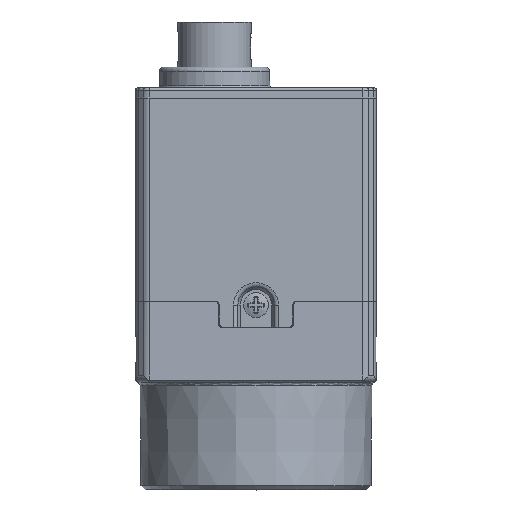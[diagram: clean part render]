
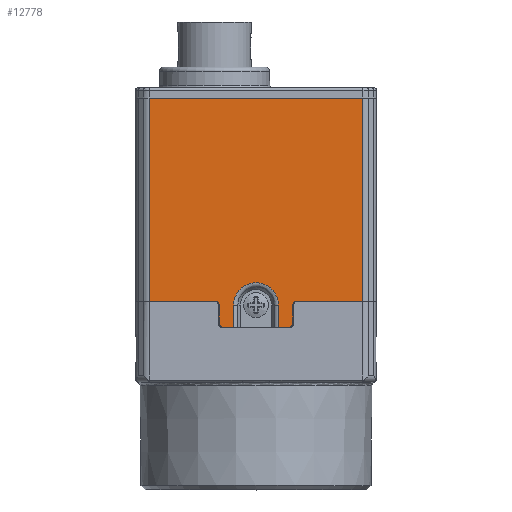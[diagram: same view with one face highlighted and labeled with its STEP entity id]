
A CAD part, top view. The second image highlights one B-rep face of the part: STEP entity #12778.
In plain terms, the highlighted planar face has unit normal (0, 0, 1).
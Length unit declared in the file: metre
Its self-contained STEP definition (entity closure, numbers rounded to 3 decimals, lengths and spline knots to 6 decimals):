
#12778=ADVANCED_FACE('0:6643',(#32966),#32967,.T.);
#15498=EDGE_CURVE('0:23629',#37070,#37066,#37071,.T.);
#15864=EDGE_CURVE('0:23614',#37604,#37601,#37605,.T.);
#17132=EDGE_CURVE('0:7330',#39390,#39383,#39393,.T.);
#19110=EDGE_CURVE('0:24562',#42125,#42122,#42128,.T.);
#19646=EDGE_CURVE('0:23590',#42859,#42862,#42863,.T.);
#19878=EDGE_CURVE('0:7612',#43178,#43179,#43180,.T.);
#20210=EDGE_CURVE('0:23641',#43629,#43630,#43631,.T.);
#20358=EDGE_CURVE('0:24331',#43825,#42125,#43828,.T.);
#20996=EDGE_CURVE('0:23620',#43178,#37604,#44665,.T.);
#21112=EDGE_CURVE('0:23650',#44810,#43629,#44816,.T.);
#22288=EDGE_CURVE('0:23605',#46317,#46320,#46323,.T.);
#23696=EDGE_CURVE('0:23599',#46320,#42862,#48076,.T.);
#24952=EDGE_CURVE('0:24559',#39390,#42122,#49576,.T.);
#24998=EDGE_CURVE('0:23626',#37066,#43179,#49631,.T.);
#25534=EDGE_CURVE('0:23653',#44810,#43825,#50227,.T.);
#25536=EDGE_CURVE('0:23638',#43630,#37070,#50229,.T.);
#25538=EDGE_CURVE('0:23611',#37601,#46317,#50231,.T.);
#25540=EDGE_CURVE('0:24379',#39383,#42859,#50233,.T.);
#32966=FACE_OUTER_BOUND('',#67886,.T.);
#32967=PLANE('',#67887);
#37066=VERTEX_POINT('',#77421);
#37070=VERTEX_POINT('',#77426);
#37071=LINE('',#77427,#77428);
#37601=VERTEX_POINT('',#78478);
#37604=VERTEX_POINT('',#78483);
#37605=LINE('',#78484,#78485);
#39383=VERTEX_POINT('',#81934);
#39390=VERTEX_POINT('',#81944);
#39393=LINE('',#81948,#81949);
#42122=VERTEX_POINT('',#86896);
#42125=VERTEX_POINT('',#86900);
#42128=LINE('',#86904,#86905);
#42859=VERTEX_POINT('',#88327);
#42862=VERTEX_POINT('',#88332);
#42863=LINE('',#88333,#88334);
#43178=VERTEX_POINT('',#88863);
#43179=VERTEX_POINT('',#88864);
#43180=CIRCLE('',#88865,0.002708);
#43629=VERTEX_POINT('',#89635);
#43630=VERTEX_POINT('',#89636);
#43631=LINE('',#89637,#89638);
#43825=VERTEX_POINT('',#90037);
#43828=LINE('',#90042,#90043);
#44665=LINE('',#91478,#91479);
#44810=VERTEX_POINT('',#91715);
#44816=CIRCLE('',#91724,0.0005);
#46317=VERTEX_POINT('',#94417);
#46320=VERTEX_POINT('',#94422);
#46323=LINE('',#94427,#94428);
#48076=CIRCLE('',#97715,0.0005);
#49576=LINE('',#100490,#100491);
#49631=LINE('',#100582,#100583);
#50227=LINE('',#101703,#101704);
#50229=CIRCLE('',#101707,0.0005);
#50231=CIRCLE('',#101710,0.0005);
#50233=LINE('',#101713,#101714);
#67886=EDGE_LOOP('',(#122249,#122250,#122251,#122252,#122253,#122254,#122255,#122256,#122257,#122258,#122259,#122260,#122261,#122262,#122263,#122264,#122265,#122266));
#67887=AXIS2_PLACEMENT_3D('',#122267,#122268,#122269);
#77421=CARTESIAN_POINT('',(-0.002708,-0.011464,0.028814));
#77426=CARTESIAN_POINT('',(-0.00395,-0.011464,0.028814));
#77427=CARTESIAN_POINT('',(-0.00395,-0.011464,0.028814));
#77428=VECTOR('',#128449,1.0);
#78478=CARTESIAN_POINT('',(0.00395,-0.011464,0.028814));
#78483=CARTESIAN_POINT('',(0.002708,-0.011464,0.028814));
#78484=CARTESIAN_POINT('',(0.002708,-0.011464,0.028814));
#78485=VECTOR('',#128694,1.0);
#81934=CARTESIAN_POINT('',(0.012886,-0.008314,0.028814));
#81944=CARTESIAN_POINT('',(0.012886,0.016236,0.028814));
#81948=CARTESIAN_POINT('',(0.012886,0.016286,0.028814));
#81949=VECTOR('',#129605,1.0);
#86896=CARTESIAN_POINT('',(-0.012886,0.016236,0.028814));
#86900=CARTESIAN_POINT('',(-0.012886,-0.008314,0.028814));
#86904=CARTESIAN_POINT('',(-0.012886,-0.008314,0.028814));
#86905=VECTOR('',#131216,1.0);
#88327=CARTESIAN_POINT('',(0.005024,-0.008314,0.028814));
#88332=CARTESIAN_POINT('',(0.00495,-0.008314,0.028814));
#88333=CARTESIAN_POINT('',(0.012886,-0.008314,0.028814));
#88334=VECTOR('',#131642,1.0);
#88863=CARTESIAN_POINT('',(0.002708,-0.008764,0.028814));
#88864=CARTESIAN_POINT('',(-0.002708,-0.008764,0.028814));
#88865=AXIS2_PLACEMENT_3D('',#131840,#131841,#131842);
#89635=CARTESIAN_POINT('',(-0.00445,-0.008814,0.028814));
#89636=CARTESIAN_POINT('',(-0.00445,-0.010964,0.028814));
#89637=CARTESIAN_POINT('',(-0.00445,-0.008814,0.028814));
#89638=VECTOR('',#132099,1.0);
#90037=CARTESIAN_POINT('',(-0.005024,-0.008314,0.028814));
#90042=CARTESIAN_POINT('',(-0.00495,-0.008314,0.028814));
#90043=VECTOR('',#132196,1.0);
#91478=CARTESIAN_POINT('',(0.002708,-0.008764,0.028814));
#91479=VECTOR('',#132722,1.0);
#91715=CARTESIAN_POINT('',(-0.00495,-0.008314,0.028814));
#91724=AXIS2_PLACEMENT_3D('',#132827,#132828,#132829);
#94417=CARTESIAN_POINT('',(0.00445,-0.010964,0.028814));
#94422=CARTESIAN_POINT('',(0.00445,-0.008814,0.028814));
#94427=CARTESIAN_POINT('',(0.00445,-0.010964,0.028814));
#94428=VECTOR('',#133783,1.0);
#97715=AXIS2_PLACEMENT_3D('',#134848,#134849,#134850);
#100490=CARTESIAN_POINT('',(0.00665,0.016236,0.028814));
#100491=VECTOR('',#135902,1.0);
#100582=CARTESIAN_POINT('',(-0.002708,-0.011464,0.028814));
#100583=VECTOR('',#135942,1.0);
#101703=CARTESIAN_POINT('',(-0.00495,-0.008314,0.028814));
#101704=VECTOR('',#136397,1.0);
#101707=AXIS2_PLACEMENT_3D('',#136398,#136399,#136400);
#101710=AXIS2_PLACEMENT_3D('',#136401,#136402,#136403);
#101713=CARTESIAN_POINT('',(0.012886,-0.008314,0.028814));
#101714=VECTOR('',#136404,1.0);
#122249=ORIENTED_EDGE('',*,*,#24952,.T.);
#122250=ORIENTED_EDGE('',*,*,#19110,.F.);
#122251=ORIENTED_EDGE('',*,*,#20358,.F.);
#122252=ORIENTED_EDGE('',*,*,#25534,.F.);
#122253=ORIENTED_EDGE('',*,*,#21112,.T.);
#122254=ORIENTED_EDGE('',*,*,#20210,.T.);
#122255=ORIENTED_EDGE('',*,*,#25536,.T.);
#122256=ORIENTED_EDGE('',*,*,#15498,.T.);
#122257=ORIENTED_EDGE('',*,*,#24998,.T.);
#122258=ORIENTED_EDGE('',*,*,#19878,.F.);
#122259=ORIENTED_EDGE('',*,*,#20996,.T.);
#122260=ORIENTED_EDGE('',*,*,#15864,.T.);
#122261=ORIENTED_EDGE('',*,*,#25538,.T.);
#122262=ORIENTED_EDGE('',*,*,#22288,.T.);
#122263=ORIENTED_EDGE('',*,*,#23696,.T.);
#122264=ORIENTED_EDGE('',*,*,#19646,.F.);
#122265=ORIENTED_EDGE('',*,*,#25540,.F.);
#122266=ORIENTED_EDGE('',*,*,#17132,.F.);
#122267=CARTESIAN_POINT('',(0.0133,0.016286,0.028814));
#122268=DIRECTION('',(0.0,0.,1.0));
#122269=DIRECTION('',(0.0,-1.0,0.));
#128449=DIRECTION('',(1.0,0.,0.));
#128694=DIRECTION('',(1.0,0.,0.));
#129605=DIRECTION('',(0.,-1.0,0.));
#131216=DIRECTION('',(0.,1.0,0.));
#131642=DIRECTION('',(-1.0,0.,0.));
#131840=CARTESIAN_POINT('',(0.,-0.008764,0.028814));
#131841=DIRECTION('',(0.,0.,1.0));
#131842=DIRECTION('',(1.0,0.,0.));
#132099=DIRECTION('',(0.,-1.0,0.));
#132196=DIRECTION('',(-1.0,0.,0.));
#132722=DIRECTION('',(0.,-1.0,0.));
#132827=CARTESIAN_POINT('',(-0.00495,-0.008814,0.028814));
#132828=DIRECTION('',(0.,0.,-1.0));
#132829=DIRECTION('',(0.,1.0,0.));
#133783=DIRECTION('',(0.,1.0,0.));
#134848=CARTESIAN_POINT('',(0.00495,-0.008814,0.028814));
#134849=DIRECTION('',(0.,0.,-1.0));
#134850=DIRECTION('',(-1.0,0.,0.));
#135902=DIRECTION('',(-1.0,0.,0.));
#135942=DIRECTION('',(0.,1.0,0.));
#136397=DIRECTION('',(-1.0,0.,0.));
#136398=CARTESIAN_POINT('',(-0.00395,-0.010964,0.028814));
#136399=DIRECTION('',(0.,0.,1.0));
#136400=DIRECTION('',(-1.0,0.,0.));
#136401=CARTESIAN_POINT('',(0.00395,-0.010964,0.028814));
#136402=DIRECTION('',(0.0,0.,1.0));
#136403=DIRECTION('',(0.,-1.0,0.));
#136404=DIRECTION('',(-1.0,0.,0.));
